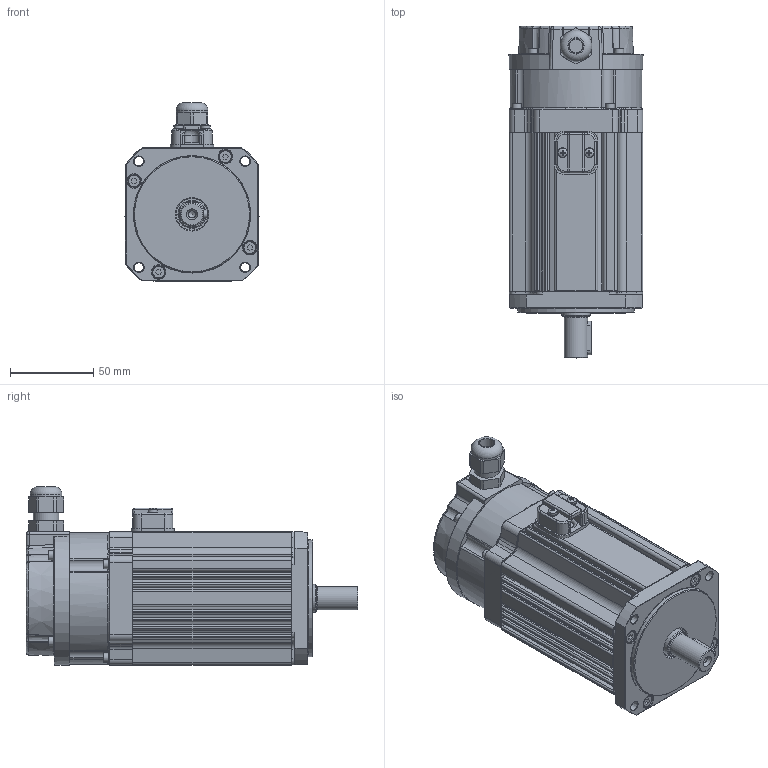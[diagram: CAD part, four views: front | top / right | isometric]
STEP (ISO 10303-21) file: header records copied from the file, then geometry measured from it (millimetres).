
FILE_DESCRIPTION(('STEP AP203'),'1');
FILE_NAME('B201E-D2RB.stp','2021-04-14T07:09:06',(' '),(' '),'Spatial InterOp 3D',' ',' ');
FILE_SCHEMA(('CONFIG_CONTROL_DESIGN'));
Length unit declared in the file: millimetre
Products named in the file (1): B201E-D2RB
Bounding box: 80.41 x 199 x 107.23 mm (x, y, z)
Volume: 900374.1 mm3; surface area: 90624.4 mm2
Topology: 1 solids, 12 shells, 1766 faces, 4222 edges, 2496 vertices
Faces by surface type: plane 774, cone 451, cylinder 349, torus 123, bspline 51, sphere 11, revolution 7
Full cylindrical faces by diameter (mm): 2.5 x4, 3 x10, 3.3 x5, 3.5 x8, 4 x4, 4.2 x1, 5.5 x8, 5.6 x2, 7 x4, 8 x1, 8.5 x1, 14 x1, 15.2 x1, 16.8 x1, 19 x1, 70 x1
Entity records: 54204 total; most frequent: CARTESIAN_POINT 14453, DIRECTION 8578, ORIENTED_EDGE 7948, EDGE_CURVE 3974, AXIS2_PLACEMENT_3D 3265, VERTEX_POINT 2409, LINE 2041, VECTOR 2041
